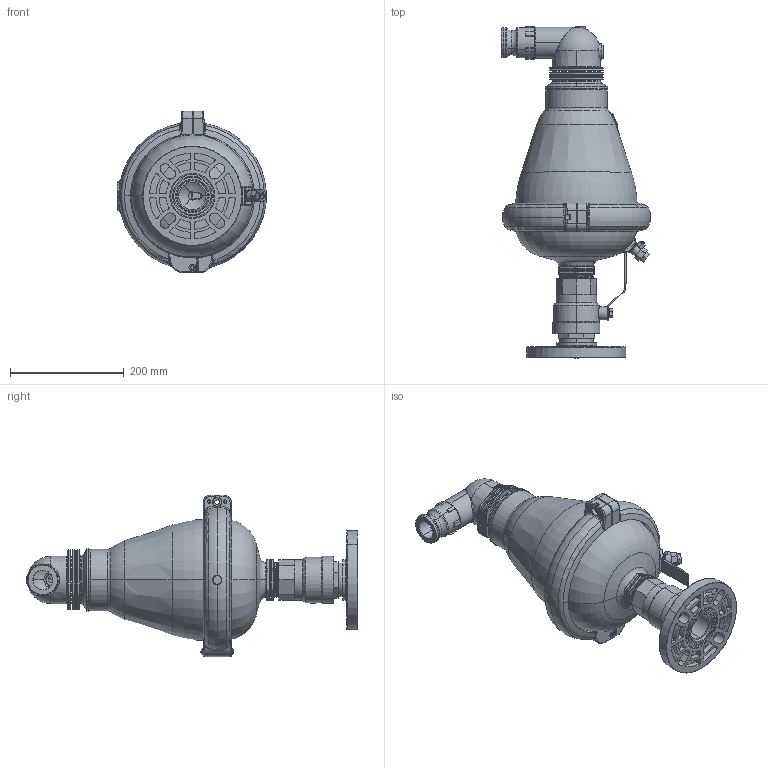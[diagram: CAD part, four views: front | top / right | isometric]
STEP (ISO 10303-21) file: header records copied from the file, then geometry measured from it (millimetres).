
FILE_DESCRIPTION (( 'STEP AP203' ), '1' );
FILE_NAME ('D-025T_FL_40-50-60_Shell.STEP', '2025-04-17T06:08:15', ( '' ), ( '' ), 'SwSTEP 2.0', 'SolidWorks 2023', '' );
FILE_SCHEMA (( 'CONFIG_CONTROL_DESIGN' ));
Length unit declared in the file: millimetre
Products named in the file (1): D-025T_FL_40-50-60_Shell
Bounding box: 262.61 x 583.91 x 284.09 mm (x, y, z)
Surface area: 465117.4 mm2 (no closed solid volume)
Topology: 0 solids, 34 shells, 956 faces, 2969 edges, 2032 vertices
Faces by surface type: cylinder 365, plane 275, torus 146, bspline 97, cone 68, sphere 5
Entity records: 54804 total; most frequent: CARTESIAN_POINT 29194, ORIENTED_EDGE 5280, DIRECTION 5197, EDGE_CURVE 2966, AXIS2_PLACEMENT_3D 2033, VERTEX_POINT 2032, CIRCLE 1173, VECTOR 1131
